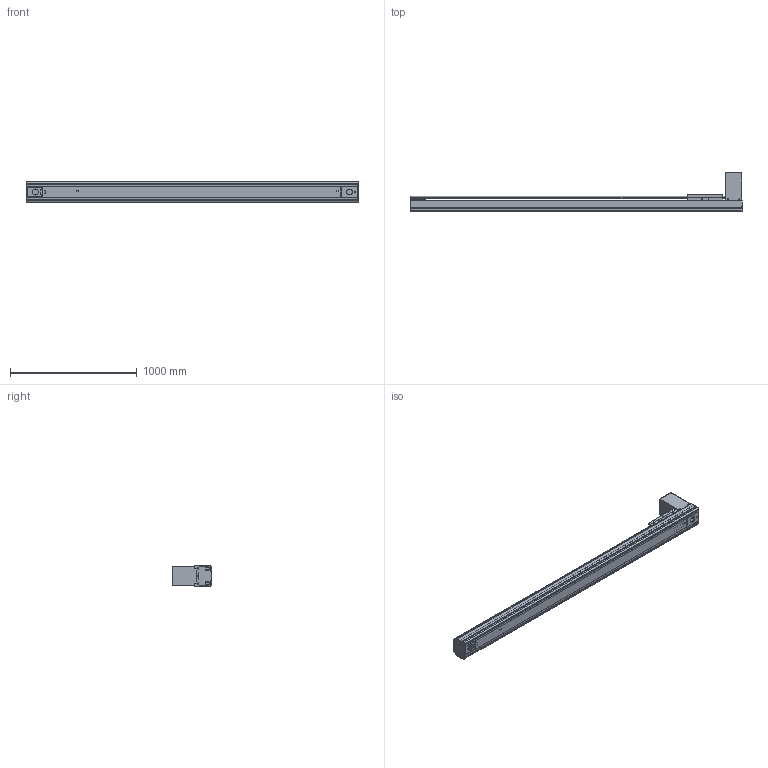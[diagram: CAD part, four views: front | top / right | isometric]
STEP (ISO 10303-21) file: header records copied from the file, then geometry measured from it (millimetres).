
FILE_DESCRIPTION((''),'2;1');
FILE_NAME('BE50G-BT-L19N-L5_IGS_PRT','2017-06-18T',(' '),(''),'PRO/ENGINEER BY PARAMETRIC TECHNOLOGY CORPORATION, 2015030','PRO/ENGINEER BY PARAMETRIC TECHNOLOGY CORPORATION, 2015030','');
FILE_SCHEMA(('CONFIG_CONTROL_DESIGN'));
Products named in the file (1): BE50G-BT-L19N-L5_IGS_PRT
Bounding box: 2620 x 309 x 160 mm (x, y, z)
Volume: 11442259.9 mm3; surface area: 4600879.7 mm2
Topology: 3 solids, 256 shells, 2106 faces, 6125 edges, 4193 vertices
Faces by surface type: cylinder 1091, plane 802, cone 170, sphere 23, torus 20
Entity records: 73483 total; most frequent: CARTESIAN_POINT 17255, DIRECTION 11659, ORIENTED_EDGE 11258, EDGE_CURVE 6051, AXIS2_PLACEMENT_3D 4397, VERTEX_POINT 4193, VECTOR 2865, LINE 2865
